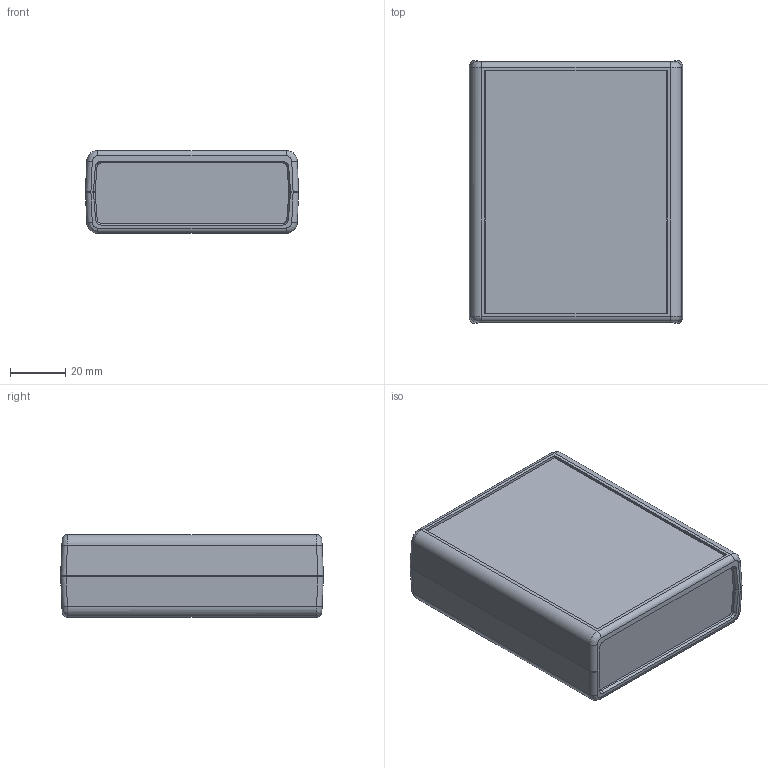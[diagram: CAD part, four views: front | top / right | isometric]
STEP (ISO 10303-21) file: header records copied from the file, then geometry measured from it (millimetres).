
FILE_DESCRIPTION(/* description */ (''),/* implementation_level */ '2;1');
FILE_NAME(/* name */ 'E:\Eng\Customer Service\Drawings\working on 1593\STEP\1593BB\1593BB.iam.stp',/* time_stamp */ '2016-04-25T15:45:09-04:00',/* author */ ('Lwalsh'),/* organization */ (''),/* preprocessor_version */ 'ST-DEVELOPER v16.1',/* originating_system */ 'Autodesk Inventor 2016',/* authorisation */ '');
FILE_SCHEMA (('AUTOMOTIVE_DESIGN { 1 0 10303 214 3 1 1 }'));
Products named in the file (6): 1593BB BOTTOM; 1593BB TOP; 1593BB End Panel; 1593BB PCB; #9885; 1593BB
Assembly tree (5 placements, depth 2):
  #9885
  1593BB
    1593BB BOTTOM
    1593BB TOP
    1593BB End Panel  x2
    1593BB PCB
Bounding box: 77.31 x 95.31 x 30.06 mm (x, y, z)
Volume: 65098.9 mm3; surface area: 65355.3 mm2
Topology: 9 solids, 9 shells, 403 faces, 1064 edges, 704 vertices
Faces by surface type: plane 231, cylinder 72, cone 56, bspline 28, torus 12, sphere 4
Full cylindrical faces by diameter (mm): 2.35 x4, 2.845 x4, 4 x4, 5.8 x8, 6 x4
Entity records: 9882 total; most frequent: CARTESIAN_POINT 2504, DIRECTION 1468, ORIENTED_EDGE 1452, EDGE_CURVE 726, AXIS2_PLACEMENT_3D 506, VERTEX_POINT 502, LINE 456, VECTOR 456
